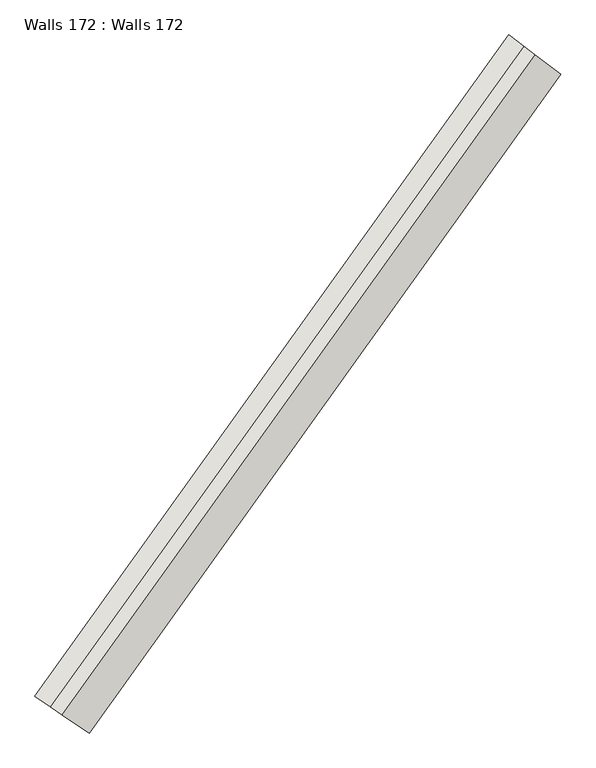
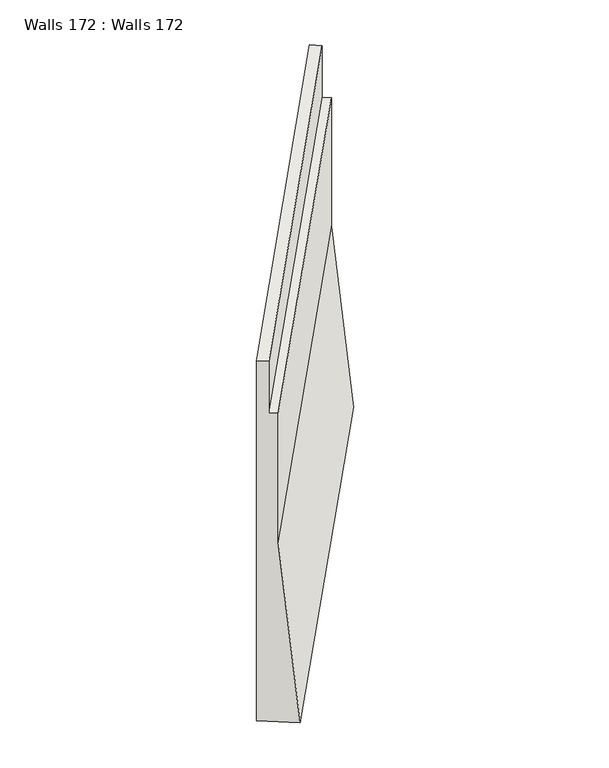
"""IFC4 building model written with IfcOpenShell, lengths in millimetres: wall geometry, Walls 172 : Walls 172."""

from ifc_helpers import new_model, si_unit, frame, origin, place, context, project, spatial, source, transform, mapped, element, save
from ifc_brep_helpers import plane_surface, spline_curve, spline_surface, advanced_brep


def walls_172_walls_172_36d41541(model_context):
    return source(origin(), model_context, "Body", "AdvancedBrep", [
        advanced_brep(
        [(217085.1020384, 118022.6779378, 642810.0), (216795.752411, 118219.5961775, 646310.0), (216795.752411, 118219.5961775, 648820.0), (216671.7454278, 118303.9897088, 648820.0), (216671.7454278, 118303.9897088, 649820.0), (216506.4027836, 118416.5144171, 649820.0), (216506.4027836, 118416.5144171, 642810.0), (222132.1000458, 125066.5146981, 642910.0), (221573.1046316, 125487.850819, 642910.0), (221573.1046316, 125487.850819, 649910.0), (221732.8176071, 125367.4690702, 649910.0), (221732.8176071, 125367.4690702, 648910.0), (221852.6023387, 125277.1827585, 648910.0), (221852.6023387, 125277.1827585, 646410.0)],
        [
            (0, 1),
            (1, 2),
            (2, 3),
            (3, 4),
            (4, 5),
            (5, 6),
            (6, 0),
            (7, 8),
            (8, 9),
            (9, 10),
            (10, 11),
            (11, 12),
            (12, 13),
            (13, 7),
            (11, 3, spline_curve(3, [(221732.8176071, 125367.4690702, 648910.0), (219989.221732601, 123054.204078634, 648880.000000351), (218301.540801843, 120698.794196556, 648849.999999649), (216671.7454278, 118303.9897088, 648820.0)], [4, 4], [0.0, 28.500884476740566])),
            (2, 12, spline_curve(3, [(216795.752411, 118219.5961775, 648820.0), (218424.188111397, 120612.402775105, 648849.999999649), (220110.461077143, 122965.847632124, 648880.000000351), (221852.6023387, 125277.1827585, 648910.0)], [4, 4], [0.0, 28.500884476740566])),
            (9, 5, spline_curve(3, [(221573.1046316, 125487.850819, 649910.0), (219827.569273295, 123172.012674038, 649879.999999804), (218138.011055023, 120813.982758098, 649850.000000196), (216506.4027836, 118416.5144171, 649820.0)], [4, 4], [0.0, 28.52863309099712])),
            (4, 10, spline_curve(3, [(216671.7454278, 118303.9897088, 649820.0), (218301.540801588, 120698.794196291, 649850.000000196), (219989.22173273, 123054.204078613, 649879.999999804), (221732.8176071, 125367.4690702, 649910.0)], [4, 4], [0.0, 28.52863309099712])),
            (8, 6, spline_curve(3, [(221573.1046316, 125487.850819, 642910.0), (219827.569273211, 123172.012673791, 642876.666666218), (218138.011055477, 120813.982758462, 642843.333333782), (216506.4027836, 118416.5144171, 642810.0)], [4, 4], [0.0, 28.544663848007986])),
            (7, 0, spline_curve(3, [(222132.1000458, 125066.5146981, 642910.0), (220393.352880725, 122759.68259021, 642876.666666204), (218710.365166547, 120410.822791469, 642843.333333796), (217085.1020384, 118022.6779378, 642810.0)], [4, 4], [0.0, 28.489351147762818])),
            (13, 1, spline_curve(3, [(221852.6023387, 125277.1827585, 646410.0), (220110.461076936, 122965.847632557, 646376.66666629), (218424.188111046, 120612.402774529, 646343.33333371), (216795.752411, 118219.5961775, 646310.0)], [4, 4], [0.0, 28.46160288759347])),
        ],
        [
            plane_surface(frame((216718.9861833, 118271.8397921, 647030.0), z_axis=(-0.5626235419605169, -0.8267132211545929, 0.0), x_axis=(-0.08226104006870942, 0.05598313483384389, 0.995037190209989))),
            plane_surface(frame((221778.4498858, 125333.0742848, 647124.2857143), z_axis=(0.6019087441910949, 0.7985648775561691, 0.0), x_axis=(-0.07946017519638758, 0.0598921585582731, 0.9950371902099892))),
            spline_surface(3, 3, [[(221852.6023387, 125277.1827585, 648910.0), (220110.461077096, 122965.847632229, 648880.0), (218424.188111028, 120612.402774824, 648850.0), (216795.752411, 118219.5961775, 648820.0)], [(221812.674094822, 125307.27819571, 648910.0), (220070.047962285, 122995.299781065, 648880.0), (218383.30567449, 120641.19991535, 648850.0), (216754.416749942, 118247.727354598, 648820.0)], [(221772.745850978, 125337.37363299, 648910.0), (220029.634847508, 123024.751929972, 648880.0), (218342.423237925, 120669.997055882, 648850.0), (216713.081088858, 118275.858531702, 648820.0)], [(221732.8176071, 125367.4690702, 648910.0), (219989.221732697, 123054.204078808, 648880.0), (218301.540801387, 120698.794196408, 648850.0), (216671.7454278, 118303.9897088, 648820.0)]], [4, 4], [4, 4], [0.0, 0.49212597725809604], [0.0, 28.500884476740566]),
            spline_surface(3, 3, [[(221732.8176071, 125367.4690702, 649910.0), (219989.221732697, 123054.204078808, 649880.0), (218301.540801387, 120698.794196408, 649850.0), (216671.7454278, 118303.9897088, 649820.0)], [(221679.579948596, 125407.596319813, 649910.0), (219935.337579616, 123093.473610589, 649880.0), (218247.030886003, 120737.190383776, 649850.0), (216616.631213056, 118341.497944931, 649820.0)], [(221626.342290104, 125447.723569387, 649910.0), (219881.453426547, 123132.743142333, 649880.0), (218192.520970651, 120775.586571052, 649850.0), (216561.516998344, 118379.006180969, 649820.0)], [(221573.1046316, 125487.850819, 649910.0), (219827.569273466, 123172.012674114, 649880.0), (218138.011055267, 120813.982758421, 649850.0), (216506.4027836, 118416.5144171, 649820.0)]], [4, 4], [4, 4], [0.0, 0.6561679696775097], [0.0, 28.52863309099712]),
            spline_surface(3, 3, [[(221573.1046316, 125487.850819, 649910.0), (219827.569273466, 123172.012674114, 649880.0), (218138.011055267, 120813.982758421, 649850.0), (216506.4027836, 118416.5144171, 649820.0)], [(221573.1046316, 125487.850819, 647576.666666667), (219827.569273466, 123172.012674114, 647545.555555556), (218138.011055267, 120813.982758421, 647514.444444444), (216506.4027836, 118416.5144171, 647483.333333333)], [(221573.1046316, 125487.850819, 645243.333333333), (219827.569273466, 123172.012674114, 645211.111111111), (218138.011055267, 120813.982758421, 645178.888888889), (216506.4027836, 118416.5144171, 645146.666666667)], [(221573.1046316, 125487.850819, 642910.0), (219827.569273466, 123172.012674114, 642876.666666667), (218138.011055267, 120813.982758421, 642843.333333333), (216506.4027836, 118416.5144171, 642810.0)]], [4, 4], [4, 4], [0.0, 22.982283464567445], [0.0, 28.544663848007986]),
            spline_surface(3, 3, [[(221573.1046316, 125487.850819, 642910.0), (219827.569273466, 123172.012674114, 642876.666666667), (218138.011055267, 120813.982758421, 642843.333333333), (216506.4027836, 118416.5144171, 642810.0)], [(221759.436436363, 125347.405445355, 642910.0), (220016.163809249, 123034.569312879, 642876.666666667), (218328.79575911, 120679.596102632, 642843.333333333), (216699.302535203, 118285.235590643, 642810.0)], [(221945.768241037, 125206.960071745, 642910.0), (220204.758344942, 122897.125951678, 642876.666666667), (218519.580462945, 120545.209446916, 642843.333333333), (216892.202286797, 118153.956764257, 642810.0)], [(222132.1000458, 125066.5146981, 642910.0), (220393.352880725, 122759.682590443, 642876.666666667), (218710.365166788, 120410.822791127, 642843.333333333), (217085.1020384, 118022.6779378, 642810.0)]], [4, 4], [4, 4], [0.0, 2.296587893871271], [0.0, 28.489351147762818]),
            spline_surface(3, 3, [[(222132.1000458, 125066.5146981, 642910.0), (220393.352880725, 122759.682590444, 642876.666666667), (218710.365166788, 120410.822791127, 642843.333333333), (217085.1020384, 118022.6779378, 642810.0)], [(222038.934143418, 125136.737384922, 644076.666666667), (220299.055612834, 122828.404271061, 644043.333333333), (218614.972814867, 120478.016119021, 644010.0), (216988.652162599, 118088.317351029, 643976.666666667)], [(221945.768241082, 125206.960071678, 645243.333333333), (220204.758344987, 122897.125951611, 645210.0), (218519.580462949, 120545.209446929, 645176.666666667), (216892.202286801, 118153.956764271, 645143.333333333)], [(221852.6023387, 125277.1827585, 646410.0), (220110.461077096, 122965.847632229, 646376.666666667), (218424.188111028, 120612.402774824, 646343.333333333), (216795.752411, 118219.5961775, 646310.0)]], [4, 4], [4, 4], [0.0, 11.54021150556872], [0.0, 28.46160288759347]),
            spline_surface(3, 3, [[(221852.6023387, 125277.1827585, 646410.0), (220110.461077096, 122965.847632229, 646376.666666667), (218424.188111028, 120612.402774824, 646343.333333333), (216795.752411, 118219.5961775, 646310.0)], [(221852.6023387, 125277.1827585, 647243.333333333), (220110.461077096, 122965.847632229, 647211.111111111), (218424.188111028, 120612.402774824, 647178.888888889), (216795.752411, 118219.5961775, 647146.666666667)], [(221852.6023387, 125277.1827585, 648076.666666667), (220110.461077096, 122965.847632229, 648045.555555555), (218424.188111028, 120612.402774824, 648014.444444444), (216795.752411, 118219.5961775, 647983.333333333)], [(221852.6023387, 125277.1827585, 648910.0), (220110.461077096, 122965.847632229, 648880.0), (218424.188111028, 120612.402774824, 648850.0), (216795.752411, 118219.5961775, 648820.0)]], [4, 4], [4, 4], [0.0, 8.218503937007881], [0.0, 28.48916695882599]),
            spline_surface(3, 3, [[(221732.8176071, 125367.4690702, 648910.0), (219989.221732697, 123054.204078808, 648880.0), (218301.540801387, 120698.794196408, 648850.0), (216671.7454278, 118303.9897088, 648820.0)], [(221732.8176071, 125367.4690702, 649243.333333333), (219989.221732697, 123054.204078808, 649213.333333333), (218301.540801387, 120698.794196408, 649183.333333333), (216671.7454278, 118303.9897088, 649153.333333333)], [(221732.8176071, 125367.4690702, 649576.666666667), (219989.221732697, 123054.204078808, 649546.666666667), (218301.540801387, 120698.794196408, 649516.666666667), (216671.7454278, 118303.9897088, 649486.666666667)], [(221732.8176071, 125367.4690702, 649910.0), (219989.221732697, 123054.204078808, 649880.0), (218301.540801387, 120698.794196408, 649850.0), (216671.7454278, 118303.9897088, 649820.0)]], [4, 4], [4, 4], [0.0, 3.2808398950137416], [0.0, 28.512776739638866]),
        ],
        [
            (0, [[1, 2, 3, 4, 5, 6, 7]]),
            (1, [[8, 9, 10, 11, 12, 13, 14]]),
            (2, [[-12, 15, -3, 16]]),
            (3, [[-10, 17, -5, 18]]),
            (4, [[-9, 19, -6, -17]]),
            (5, [[-8, 20, -7, -19]]),
            (6, [[-14, 21, -1, -20]]),
            (7, [[-13, -16, -2, -21]]),
            (8, [[-11, -18, -4, -15]]),
        ],
    ),
    ])


if __name__ == "__main__":
    model = new_model("IFC4")
    model_context = context("Model", 3, world=origin())
    ifc_project = project(units=[si_unit("LENGTHUNIT", "METRE", prefix="MILLI")], contexts=[model_context])
    site = spatial("IfcSite", under=ifc_project)
    building = spatial("IfcBuilding", under=site)
    placement = place(None, origin())
    walls_172_walls_172_shape = walls_172_walls_172_36d41541(model_context)
    element("IfcWall", 1, ObjectType="Walls 172 : Walls 172", at=placement, inside=building, context=model_context, shape_type="MappedRepresentation", body=[
        mapped(walls_172_walls_172_shape, transform((0.0, 0.0, 0.0), x_axis=(1.0, 0.0, 0.0), y_axis=(0.0, 1.0, 0.0), z_axis=(0.0, 0.0, 1.0))),
    ])
    save(model, "model.ifc")
